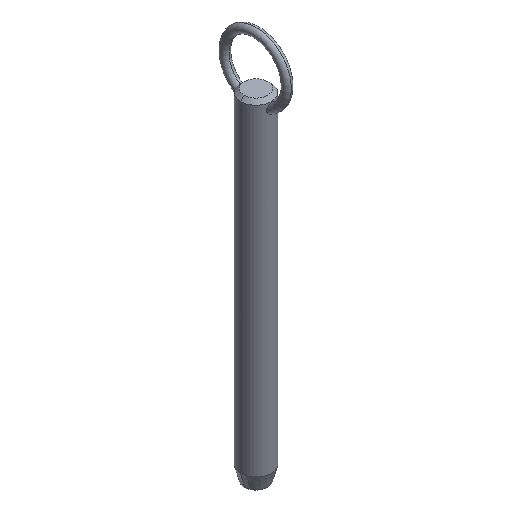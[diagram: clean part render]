
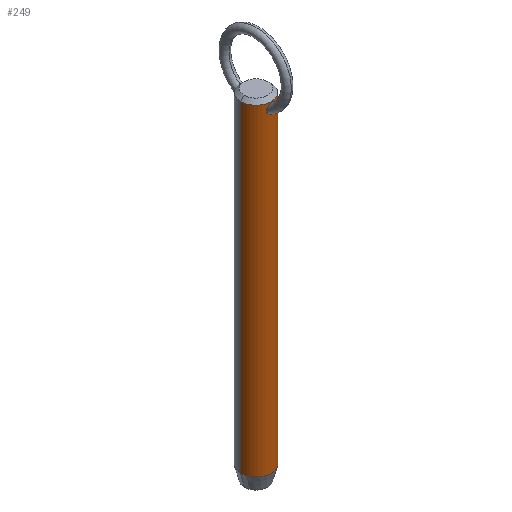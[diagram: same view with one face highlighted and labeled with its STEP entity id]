
A CAD part, isometric view. The second image highlights one B-rep face of the part: STEP entity #249.
In plain terms, the highlighted cylindrical face has radius 5.55 mm (diameter 11.1 mm), a partial arc.
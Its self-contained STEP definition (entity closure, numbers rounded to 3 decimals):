
#4 = CIRCLE ( 'NONE', #224, 5.55 ) ;
#5 = EDGE_CURVE ( 'NONE', #122, #374, #96, .T. ) ;
#9 = CARTESIAN_POINT ( 'NONE',  ( -0.939, -5.472, 105.91 ) ) ;
#11 = CARTESIAN_POINT ( 'NONE',  ( -0.785, -5.497, 106.058 ) ) ;
#12 = AXIS2_PLACEMENT_3D ( 'NONE', #351, #180, #241 ) ;
#19 = CARTESIAN_POINT ( 'NONE',  ( -1.054, -5.449, 103.304 ) ) ;
#20 = CARTESIAN_POINT ( 'NONE',  ( 0.515, -5.527, 106.222 ) ) ;
#21 = CARTESIAN_POINT ( 'NONE',  ( 0.417, -5.535, 106.267 ) ) ;
#26 = VERTEX_POINT ( 'NONE', #338 ) ;
#41 = DIRECTION ( 'NONE',  ( 0., 0., -1. ) ) ;
#46 = CARTESIAN_POINT ( 'NONE',  ( -1.477, -5.35, 104.142 ) ) ;
#48 = CARTESIAN_POINT ( 'NONE',  ( 1.295, -5.397, 105.382 ) ) ;
#57 = CARTESIAN_POINT ( 'NONE',  ( 1.503, -5.343, 104.459 ) ) ;
#73 = EDGE_LOOP ( 'NONE', ( #154, #216, #111, #130 ) ) ;
#84 = CARTESIAN_POINT ( 'NONE',  ( -0.716, -5.504, 103.052 ) ) ;
#85 = CARTESIAN_POINT ( 'NONE',  ( 0.716, -5.504, 103.052 ) ) ;
#86 = CARTESIAN_POINT ( 'NONE',  ( -0.976, -5.464, 103.231 ) ) ;
#87 = CARTESIAN_POINT ( 'NONE',  ( -1.44, -5.36, 104.987 ) ) ;
#89 = VERTEX_POINT ( 'NONE', #129 ) ;
#90 = CARTESIAN_POINT ( 'NONE',  ( -0.106, -5.55, 106.345 ) ) ;
#95 = CARTESIAN_POINT ( 'NONE',  ( 1.26, -5.407, 103.543 ) ) ;
#96 = B_SPLINE_CURVE_WITH_KNOTS ( 'NONE', 3,
 ( #283, #336, #402, #160, #444, #84, #383, #86, #19, #503, #417, #289, #46, #252, #177, #133, #87, #498, #495, #9, #11, #340, #507, #296, #90, #212 ),
 .UNSPECIFIED., .F., .F.,
 ( 4, 2, 2, 2, 2, 2, 2, 2, 2, 2, 2, 2, 4 ),
 ( 0.01, 0.01, 0.01, 0.011, 0.011, 0.012, 0.012, 0.012, 0.013, 0.013, 0.014, 0.014, 0.015 ),
 .UNSPECIFIED. ) ;
#99 = VERTEX_POINT ( 'NONE', #465 ) ;
#100 = DIRECTION ( 'NONE',  ( 1., 0., 0. ) ) ;
#106 = VECTOR ( 'NONE', #353, 1000. ) ;
#111 = ORIENTED_EDGE ( 'NONE', *, *, #448, .T. ) ;
#118 = CARTESIAN_POINT ( 'NONE',  ( 0., 0., 101.6 ) ) ;
#122 = VERTEX_POINT ( 'NONE', #315 ) ;
#127 = CARTESIAN_POINT ( 'NONE',  ( 5.55, 0., 106.65 ) ) ;
#129 = CARTESIAN_POINT ( 'NONE',  ( -5.55, 0., 106.65 ) ) ;
#130 = ORIENTED_EDGE ( 'NONE', *, *, #153, .T. ) ;
#133 = CARTESIAN_POINT ( 'NONE',  ( -1.485, -5.348, 104.779 ) ) ;
#134 = CARTESIAN_POINT ( 'NONE',  ( 0., -5.55, 106.345 ) ) ;
#142 = EDGE_LOOP ( 'NONE', ( #512, #330 ) ) ;
#143 = AXIS2_PLACEMENT_3D ( 'NONE', #118, #41, #408 ) ;
#151 = EDGE_CURVE ( 'NONE', #321, #26, #159, .T. ) ;
#153 = EDGE_CURVE ( 'NONE', #99, #26, #306, .T. ) ;
#154 = ORIENTED_EDGE ( 'NONE', *, *, #151, .F. ) ;
#159 = LINE ( 'NONE', #475, #257 ) ;
#160 = CARTESIAN_POINT ( 'NONE',  ( -0.42, -5.535, 102.932 ) ) ;
#172 = CARTESIAN_POINT ( 'NONE',  ( 0.107, -5.55, 102.877 ) ) ;
#173 = CARTESIAN_POINT ( 'NONE',  ( 0., -5.55, 102.877 ) ) ;
#176 = CARTESIAN_POINT ( 'NONE',  ( 0.214, -5.547, 106.328 ) ) ;
#177 = CARTESIAN_POINT ( 'NONE',  ( -1.503, -5.343, 104.459 ) ) ;
#180 = DIRECTION ( 'NONE',  ( 0., 0., 1. ) ) ;
#190 = FACE_BOUND ( 'NONE', #142, .T. ) ;
#212 = CARTESIAN_POINT ( 'NONE',  ( 0., -5.55, 106.345 ) ) ;
#216 = ORIENTED_EDGE ( 'NONE', *, *, #320, .T. ) ;
#220 = CARTESIAN_POINT ( 'NONE',  ( 0.421, -5.535, 102.932 ) ) ;
#223 = CARTESIAN_POINT ( 'NONE',  ( 1.486, -5.347, 104.774 ) ) ;
#224 = AXIS2_PLACEMENT_3D ( 'NONE', #356, #395, #100 ) ;
#228 = B_SPLINE_CURVE_WITH_KNOTS ( 'NONE', 3,
 ( #134, #262, #176, #21, #20, #297, #307, #295, #48, #258, #223, #57, #381, #416, #502, #510, #95, #309, #342, #339, #85, #425, #220, #414, #172, #173 ),
 .UNSPECIFIED., .F., .F.,
 ( 4, 2, 2, 2, 2, 2, 2, 2, 2, 2, 2, 2, 4 ),
 ( 0.005, 0.005, 0.005, 0.006, 0.006, 0.007, 0.007, 0.008, 0.008, 0.009, 0.009, 0.009, 0.01 ),
 .UNSPECIFIED. ) ;
#241 = DIRECTION ( 'NONE',  ( -1., 0., 0. ) ) ;
#249 = ADVANCED_FACE ( 'NONE', ( #304, #190 ), #500, .T. ) ;
#252 = CARTESIAN_POINT ( 'NONE',  ( -1.5, -5.343, 104.353 ) ) ;
#257 = VECTOR ( 'NONE', #318, 1000. ) ;
#258 = CARTESIAN_POINT ( 'NONE',  ( 1.44, -5.36, 104.986 ) ) ;
#262 = CARTESIAN_POINT ( 'NONE',  ( 0.106, -5.55, 106.345 ) ) ;
#283 = CARTESIAN_POINT ( 'NONE',  ( 0., -5.55, 102.877 ) ) ;
#289 = CARTESIAN_POINT ( 'NONE',  ( -1.455, -5.356, 104.036 ) ) ;
#292 = EDGE_CURVE ( 'NONE', #374, #122, #228, .T. ) ;
#295 = CARTESIAN_POINT ( 'NONE',  ( 1.194, -5.422, 105.571 ) ) ;
#296 = CARTESIAN_POINT ( 'NONE',  ( -0.211, -5.547, 106.329 ) ) ;
#297 = CARTESIAN_POINT ( 'NONE',  ( 0.786, -5.497, 106.057 ) ) ;
#304 = FACE_OUTER_BOUND ( 'NONE', #73, .T. ) ;
#306 = CIRCLE ( 'NONE', #12, 5.55 ) ;
#307 = CARTESIAN_POINT ( 'NONE',  ( 0.941, -5.471, 105.907 ) ) ;
#309 = CARTESIAN_POINT ( 'NONE',  ( 1.055, -5.449, 103.305 ) ) ;
#315 = CARTESIAN_POINT ( 'NONE',  ( 0., -5.55, 102.877 ) ) ;
#318 = DIRECTION ( 'NONE',  ( 0., 0., -1. ) ) ;
#320 = EDGE_CURVE ( 'NONE', #321, #89, #4, .T. ) ;
#321 = VERTEX_POINT ( 'NONE', #127 ) ;
#330 = ORIENTED_EDGE ( 'NONE', *, *, #5, .T. ) ;
#336 = CARTESIAN_POINT ( 'NONE',  ( -0.107, -5.55, 102.877 ) ) ;
#338 = CARTESIAN_POINT ( 'NONE',  ( 5.55, 0., -9.2 ) ) ;
#339 = CARTESIAN_POINT ( 'NONE',  ( 0.807, -5.492, 103.106 ) ) ;
#340 = CARTESIAN_POINT ( 'NONE',  ( -0.513, -5.527, 106.223 ) ) ;
#342 = CARTESIAN_POINT ( 'NONE',  ( 0.977, -5.464, 103.232 ) ) ;
#349 = CARTESIAN_POINT ( 'NONE',  ( -5.55, 0., 101.6 ) ) ;
#351 = CARTESIAN_POINT ( 'NONE',  ( 0., 0., -9.2 ) ) ;
#353 = DIRECTION ( 'NONE',  ( 0., 0., -1. ) ) ;
#356 = CARTESIAN_POINT ( 'NONE',  ( 0., 0., 106.65 ) ) ;
#374 = VERTEX_POINT ( 'NONE', #391 ) ;
#381 = CARTESIAN_POINT ( 'NONE',  ( 1.5, -5.343, 104.354 ) ) ;
#383 = CARTESIAN_POINT ( 'NONE',  ( -0.807, -5.492, 103.105 ) ) ;
#391 = CARTESIAN_POINT ( 'NONE',  ( 0., -5.55, 106.345 ) ) ;
#395 = DIRECTION ( 'NONE',  ( 0., 0., -1. ) ) ;
#402 = CARTESIAN_POINT ( 'NONE',  ( -0.212, -5.547, 102.888 ) ) ;
#408 = DIRECTION ( 'NONE',  ( -1., 0., 0. ) ) ;
#414 = CARTESIAN_POINT ( 'NONE',  ( 0.213, -5.547, 102.888 ) ) ;
#416 = CARTESIAN_POINT ( 'NONE',  ( 1.477, -5.35, 104.144 ) ) ;
#417 = CARTESIAN_POINT ( 'NONE',  ( -1.362, -5.381, 103.732 ) ) ;
#425 = CARTESIAN_POINT ( 'NONE',  ( 0.523, -5.526, 102.966 ) ) ;
#444 = CARTESIAN_POINT ( 'NONE',  ( -0.523, -5.526, 102.966 ) ) ;
#448 = EDGE_CURVE ( 'NONE', #89, #99, #523, .T. ) ;
#465 = CARTESIAN_POINT ( 'NONE',  ( -5.55, 0., -9.2 ) ) ;
#475 = CARTESIAN_POINT ( 'NONE',  ( 5.55, 0., 101.6 ) ) ;
#495 = CARTESIAN_POINT ( 'NONE',  ( -1.195, -5.421, 105.571 ) ) ;
#498 = CARTESIAN_POINT ( 'NONE',  ( -1.294, -5.398, 105.386 ) ) ;
#500 = CYLINDRICAL_SURFACE ( 'NONE', #143, 5.55 ) ;
#502 = CARTESIAN_POINT ( 'NONE',  ( 1.455, -5.356, 104.038 ) ) ;
#503 = CARTESIAN_POINT ( 'NONE',  ( -1.26, -5.407, 103.542 ) ) ;
#507 = CARTESIAN_POINT ( 'NONE',  ( -0.416, -5.535, 106.267 ) ) ;
#510 = CARTESIAN_POINT ( 'NONE',  ( 1.363, -5.38, 103.734 ) ) ;
#512 = ORIENTED_EDGE ( 'NONE', *, *, #292, .T. ) ;
#523 = LINE ( 'NONE', #349, #106 ) ;
